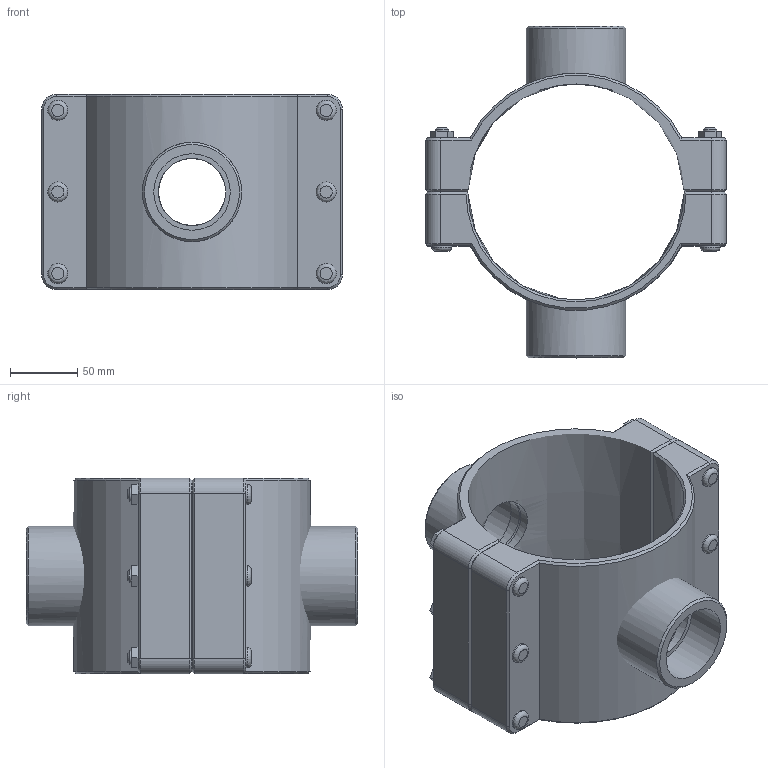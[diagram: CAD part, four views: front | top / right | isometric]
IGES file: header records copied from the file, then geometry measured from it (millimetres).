
Global section: file name: 161760160020_161860160020.ipt; native system: Autodesk Inventor 2015; preprocessor: unknown; author: KIM; date: 20170618.093823; units: millimetre
Bounding box: 223 x 246 x 145 mm (x, y, z)
Volume: 1343039.1 mm3; surface area: 237379.2 mm2
Topology: 3 solids, 3 shells, 179 faces, 416 edges, 265 vertices
Faces by surface type: plane 102, cylinder 30, cone 28, revolution 19
Full cylindrical faces by diameter (mm): 10 x6, 15 x12, 73.653 x2
